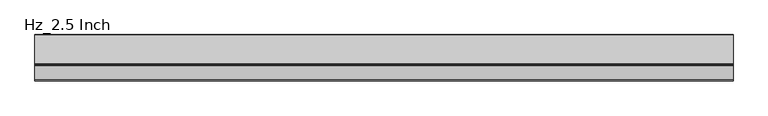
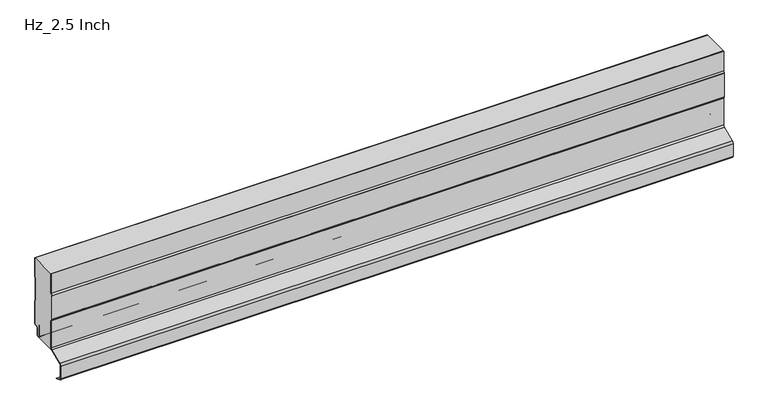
"""IFC4 building model written with IfcOpenShell, lengths in millimetres: plate geometry, AWIP_R18_CP_HR3_Hz_Roof Panel : Hz_2.5 Inch."""

from ifc_helpers import new_model, si_unit, point, frame, frame_2d, origin, place, context, project, spatial, polyline, circle_curve, trimmed, segment, composite_curve, outline, extrude, source, transform, mapped, element, save
from ifc_brep_helpers import plane_surface, cylinder_surface, revolved_surface, advanced_brep


def hz_2_5_inch_6ec0f008(model_context):
    return source(origin(), model_context, "Body", "SolidModel", [
        advanced_brep(
        [(-723.9042608, -59.9158805, 203.2), (723.9042608, -59.9158805, 203.2), (723.9042608, -0.8, 203.2), (-723.9042608, -0.8, 203.2), (-723.9042608, -59.9158805, 35.2427703), (-723.9042608, -59.9158805, 96.0266872), (-723.9042608, -60.1621797, 96.788077), (-723.9042608, -62.7, 100.3002117), (-723.9042608, -62.7, 154.5030919), (-723.9042608, -60.1621797, 158.0152264), (-723.9042608, -59.9158805, 158.7766163), (-723.9042608, -0.8, 161.5426774), (-723.9042608, -0.9968123, 160.5908561), (-723.9042608, -2.0293831, 158.2007569), (-723.9042608, -2.3, 156.8920026), (-723.9042608, -2.3, 108.5079974), (-723.9042608, -2.0293831, 107.1992431), (-723.9042608, -0.9968123, 104.8091439), (-723.9042608, -0.8, 103.8573226), (-723.9042608, -0.8, 54.1), (-723.9042608, -3.0, 51.9), (-723.9042608, -5.0, 51.9), (-723.9042608, -9.8, 47.1), (-723.9042608, -9.8, 33.5841899), (-723.9042608, -12.0, 31.3841899), (-723.9042608, -14.0, 31.3841899), (-723.9042608, -16.2, 33.5841899), (-723.9042608, -16.2, 59.5252318), (-723.9042608, -17.0, 59.5252318), (-723.9042608, -17.0, 33.5841899), (-723.9042608, -14.0, 30.5841899), (-723.9042608, -63.6298575, 30.5672433), (723.9042608, -59.9158805, 35.2427703), (723.9042608, -63.6298575, 30.5672433), (723.9042608, -14.0, 30.5672433), (723.9042608, -17.0, 33.5841899), (723.9042608, -17.0, 59.5252318), (723.9042608, -16.2, 59.5252318), (723.9042608, -16.2, 33.5841899), (723.9042608, -14.0, 31.3841899), (723.9042608, -12.0, 31.3841899), (723.9042608, -9.8, 33.5841899), (723.9042608, -9.8, 47.1), (723.9042608, -5.0, 51.9), (723.9042608, -3.0, 51.9), (723.9042608, -0.8, 54.1), (723.9042608, -0.8, 103.8573226), (723.9042608, -0.9968123, 104.8091439), (723.9042608, -2.0293831, 107.1992431), (723.9042608, -2.3, 108.5079974), (723.9042608, -2.3, 156.8920026), (723.9042608, -2.0293831, 158.2007569), (723.9042608, -0.9968123, 160.5908561), (723.9042608, -0.8, 161.5426774), (723.9042608, -59.9158805, 158.7766163), (723.9042608, -60.1621797, 158.0152264), (723.9042608, -62.7, 154.5030919), (723.9042608, -62.7, 100.3002117), (723.9042608, -60.1621797, 96.788077), (723.9042608, -59.9158805, 96.0266872)],
        [
            (0, 1),
            (1, 2),
            (2, 3),
            (3, 0),
            (4, 5),
            (5, 6, circle_curve(frame((-723.9042608, -61.2158805, 96.0266872), z_axis=(1.0, 0.0, 0.0), x_axis=(0.0, -1.0, 0.0)), 1.3)),
            (6, 7),
            (7, 8),
            (8, 9),
            (9, 10, circle_curve(frame((-723.9042608, -61.2158805, 158.7766163), z_axis=(1.0, 0.0, 0.0), x_axis=(0.0, -1.0, 0.0)), 1.3)),
            (10, 0),
            (3, 11),
            (11, 12, circle_curve(frame((-723.9042608, -3.2, 161.5426774), z_axis=(-1.0, 0.0, 0.0), x_axis=(0.0, -1.0, 0.0)), 2.4)),
            (12, 13),
            (13, 14, circle_curve(frame((-723.9042608, 1.0, 156.8920026), z_axis=(1.0, 0.0, 0.0), x_axis=(0.0, -1.0, 0.0)), 3.3)),
            (14, 15),
            (15, 16, circle_curve(frame((-723.9042608, 1.0, 108.5079974), z_axis=(1.0, 0.0, 0.0), x_axis=(0.0, -1.0, 0.0)), 3.3)),
            (16, 17),
            (17, 18, circle_curve(frame((-723.9042608, -3.2, 103.8573226), z_axis=(-1.0, 0.0, 0.0), x_axis=(0.0, -1.0, 0.0)), 2.4)),
            (18, 19),
            (19, 20, circle_curve(frame((-723.9042608, -3.0, 54.1), z_axis=(-1.0, 0.0, 0.0), x_axis=(0.0, -1.0, 0.0)), 2.2)),
            (20, 21),
            (21, 22, circle_curve(frame((-723.9042608, -5.0, 47.1), z_axis=(1.0, 0.0, 0.0), x_axis=(0.0, -1.0, 0.0)), 4.8)),
            (22, 23),
            (23, 24, circle_curve(frame((-723.9042608, -12.0, 33.5841899), z_axis=(-1.0, 0.0, 0.0), x_axis=(0.0, -1.0, 0.0)), 2.2)),
            (24, 25),
            (25, 26, circle_curve(frame((-723.9042608, -14.0, 33.5841899), z_axis=(-1.0, 0.0, 0.0), x_axis=(0.0, -1.0, 0.0)), 2.2)),
            (26, 27),
            (27, 28),
            (28, 29),
            (29, 30, circle_curve(frame((-723.9042608, -14.0, 33.5841899), z_axis=(1.0, 0.0, 0.0), x_axis=(0.0, -1.0, 0.0)), 3.0)),
            (30, 31),
            (31, 4, circle_curve(frame((-723.9042608, -64.7158804, 35.2427703), z_axis=(1.0, 0.0, 0.0), x_axis=(0.0, -1.0, 0.0)), 4.7999999)),
            (32, 33, circle_curve(frame((723.9042608, -64.7158804, 35.2427703), z_axis=(-1.0, 0.0, 0.0), x_axis=(0.0, -1.0, 0.0)), 4.7999999)),
            (33, 34),
            (34, 35, circle_curve(frame((723.9042608, -14.0, 33.5841899), z_axis=(-1.0, 0.0, 0.0), x_axis=(0.0, -1.0, 0.0)), 3.0)),
            (35, 36),
            (36, 37),
            (37, 38),
            (38, 39, circle_curve(frame((723.9042608, -14.0, 33.5841899), z_axis=(1.0, 0.0, 0.0), x_axis=(0.0, -1.0, 0.0)), 2.2)),
            (39, 40),
            (40, 41, circle_curve(frame((723.9042608, -12.0, 33.5841899), z_axis=(1.0, 0.0, 0.0), x_axis=(0.0, -1.0, 0.0)), 2.2)),
            (41, 42),
            (42, 43, circle_curve(frame((723.9042608, -5.0, 47.1), z_axis=(-1.0, 0.0, 0.0), x_axis=(0.0, -1.0, 0.0)), 4.8)),
            (43, 44),
            (44, 45, circle_curve(frame((723.9042608, -3.0, 54.1), z_axis=(1.0, 0.0, 0.0), x_axis=(0.0, -1.0, 0.0)), 2.2)),
            (45, 46),
            (46, 47, circle_curve(frame((723.9042608, -3.2, 103.8573226), z_axis=(1.0, 0.0, 0.0), x_axis=(0.0, -1.0, 0.0)), 2.4)),
            (47, 48),
            (48, 49, circle_curve(frame((723.9042608, 1.0, 108.5079974), z_axis=(-1.0, 0.0, 0.0), x_axis=(0.0, -1.0, 0.0)), 3.3)),
            (49, 50),
            (50, 51, circle_curve(frame((723.9042608, 1.0, 156.8920026), z_axis=(-1.0, 0.0, 0.0), x_axis=(0.0, -1.0, 0.0)), 3.3)),
            (51, 52),
            (52, 53, circle_curve(frame((723.9042608, -3.2, 161.5426774), z_axis=(1.0, 0.0, 0.0), x_axis=(0.0, -1.0, 0.0)), 2.4)),
            (53, 2),
            (1, 54),
            (54, 55, circle_curve(frame((723.9042608, -61.2158805, 158.7766163), z_axis=(-1.0, 0.0, 0.0), x_axis=(0.0, -1.0, 0.0)), 1.3)),
            (55, 56),
            (56, 57),
            (57, 58),
            (58, 59, circle_curve(frame((723.9042608, -61.2158805, 96.0266872), z_axis=(-1.0, 0.0, 0.0), x_axis=(0.0, -1.0, 0.0)), 1.3)),
            (59, 32),
            (31, 33),
            (32, 4),
            (30, 34),
            (29, 35),
            (28, 36),
            (27, 37),
            (26, 38),
            (25, 39),
            (24, 40),
            (23, 41),
            (22, 42),
            (21, 43),
            (20, 44),
            (19, 45),
            (18, 46),
            (17, 47),
            (16, 48),
            (15, 49),
            (14, 50),
            (13, 51),
            (12, 52),
            (11, 53),
            (10, 54),
            (9, 55),
            (8, 56),
            (7, 57),
            (6, 58),
            (5, 59),
        ],
        [
            plane_surface(frame((723.9042608, 5.0, 203.2), z_axis=(0.0, 0.0, 1.0), x_axis=(-1.0, 0.0, 0.0))),
            plane_surface(frame((-723.9042608, -0.8, 508.0), z_axis=(-1.0, 0.0, 0.0), x_axis=(0.0, -1.0, 0.0))),
            plane_surface(frame((723.9042608, -0.8, 508.0), z_axis=(1.0, 0.0, 0.0), x_axis=(0.0, -1.0, 0.0))),
            revolved_surface(polyline([(723.9042608, -69.5158803, 35.2427703), (-723.9042608, -69.5158803, 35.2427703)]), (-723.9042608, -64.7158804, 35.2427703), (1.0, 0.0, 0.0)),
            plane_surface(frame((-723.9042608, -63.6298575, 30.5672433), z_axis=(0.0, 0.0, -1.0), x_axis=(1.0, 0.0, 0.0))),
            revolved_surface(polyline([(723.9042608, -17.0, 33.5841899), (-723.9042608, -17.0, 33.5841899)]), (-723.9042608, -14.0, 33.5841899), (1.0, 0.0, 0.0)),
            plane_surface(frame((-723.9042608, -17.0, 33.5841899), z_axis=(0.0, 1.0, 0.0), x_axis=(1.0, 0.0, 0.0))),
            plane_surface(frame((-723.9042608, -17.0, 59.5252318), z_axis=(0.0, 0.0, -1.0), x_axis=(1.0, 0.0, 0.0))),
            plane_surface(frame((-723.9042608, -16.2, 59.5252318), z_axis=(0.0, -1.0, 0.0), x_axis=(1.0, 0.0, 0.0))),
            cylinder_surface(frame((-723.9042608, -14.0, 33.5841899), z_axis=(-1.0, 0.0, 0.0), x_axis=(0.0, -1.0, 0.0)), 2.2),
            plane_surface(frame((-723.9042608, -14.0, 31.3841899), z_axis=(0.0, 0.0, -1.0), x_axis=(1.0, 0.0, 0.0))),
            cylinder_surface(frame((-723.9042608, -12.0, 33.5841899), z_axis=(-1.0, 0.0, 0.0), x_axis=(0.0, -1.0, 0.0)), 2.2),
            plane_surface(frame((-723.9042608, -9.8, 33.5841899), z_axis=(0.0, 1.0, 0.0), x_axis=(1.0, 0.0, 0.0))),
            revolved_surface(polyline([(723.9042608, -9.8, 47.1), (-723.9042608, -9.8, 47.1)]), (-723.9042608, -5.0, 47.1), (1.0, 0.0, 0.0)),
            plane_surface(frame((-723.9042608, -5.0, 51.9), z_axis=(0.0, 0.0, -1.0), x_axis=(1.0, 0.0, 0.0))),
            cylinder_surface(frame((-723.9042608, -3.0, 54.1), z_axis=(-1.0, 0.0, 0.0), x_axis=(0.0, -1.0, 0.0)), 2.2),
            plane_surface(frame((-723.9042608, -0.8, 54.1), z_axis=(0.0, 1.0, 0.0), x_axis=(1.0, 0.0, 0.0))),
            cylinder_surface(frame((-723.9042608, -3.2, 103.8573226), z_axis=(-1.0, 0.0, 0.0), x_axis=(0.0, -1.0, 0.0)), 2.4),
            plane_surface(frame((-723.9042608, -0.9968123, 104.8091439), z_axis=(0.0, 0.9179948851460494, 0.3965922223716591), x_axis=(1.0, 0.0, 0.0))),
            revolved_surface(polyline([(723.9042608, -2.3, 108.5079974), (-723.9042608, -2.3, 108.5079974)]), (-723.9042608, 1.0, 108.5079974), (1.0, 0.0, 0.0)),
            plane_surface(frame((-723.9042608, -2.3, 108.5079974), z_axis=(0.0, 1.0, 0.0), x_axis=(1.0, 0.0, 0.0))),
            revolved_surface(polyline([(723.9042608, -2.3, 156.8920026), (-723.9042608, -2.3, 156.8920026)]), (-723.9042608, 1.0, 156.8920026), (1.0, 0.0, 0.0)),
            plane_surface(frame((-723.9042608, -2.0293831, 158.2007569), z_axis=(0.0, 0.9179948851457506, -0.39659222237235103), x_axis=(1.0, 0.0, 0.0))),
            cylinder_surface(frame((-723.9042608, -3.2, 161.5426774), z_axis=(-1.0, 0.0, 0.0), x_axis=(0.0, -1.0, 0.0)), 2.4),
            plane_surface(frame((-723.9042608, -0.8, 161.5426774), z_axis=(0.0, 1.0, 0.0), x_axis=(1.0, 0.0, 0.0))),
            plane_surface(frame((-723.9042608, -59.9158805, 219.2727425), z_axis=(0.0, -1.0, 0.0), x_axis=(1.0, 0.0, 0.0))),
            revolved_surface(polyline([(723.9042608, -62.515880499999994, 158.7766163), (-723.9042608, -62.515880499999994, 158.7766163)]), (-723.9042608, -61.2158805, 158.7766163), (1.0, 0.0, 0.0)),
            plane_surface(frame((-723.9042608, -60.1621797, 158.0152264), z_axis=(0.0, -0.8105391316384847, 0.585684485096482), x_axis=(1.0, 0.0, 0.0))),
            plane_surface(frame((-723.9042608, -62.7, 154.5030919), z_axis=(0.0, -1.0, 0.0), x_axis=(1.0, 0.0, 0.0))),
            plane_surface(frame((-723.9042608, -62.7, 100.3002117), z_axis=(0.0, -0.8105391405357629, -0.5856844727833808), x_axis=(1.0, 0.0, 0.0))),
            revolved_surface(polyline([(723.9042608, -62.515880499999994, 96.0266872), (-723.9042608, -62.515880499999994, 96.0266872)]), (-723.9042608, -61.2158805, 96.0266872), (1.0, 0.0, 0.0)),
            plane_surface(frame((-723.9042608, -59.9158805, 96.0266872), z_axis=(0.0, -1.0, 0.0), x_axis=(1.0, 0.0, 0.0))),
        ],
        [
            (0, [[1, 2, 3, 4]]),
            (1, [[5, 6, 7, 8, 9, 10, 11, -4, 12, 13, 14, 15, 16, 17, 18, 19, 20, 21, 22, 23, 24, 25, 26, 27, 28, 29, 30, 31, 32, 33]]),
            (2, [[34, 35, 36, 37, 38, 39, 40, 41, 42, 43, 44, 45, 46, 47, 48, 49, 50, 51, 52, 53, 54, 55, -2, 56, 57, 58, 59, 60, 61, 62]]),
            (3, [[63, -34, 64, -33]]),
            (4, [[65, -35, -63, -32]]),
            (5, [[66, -36, -65, -31]]),
            (6, [[67, -37, -66, -30]]),
            (7, [[68, -38, -67, -29]]),
            (8, [[69, -39, -68, -28]]),
            (9, [[70, -40, -69, -27]]),
            (10, [[71, -41, -70, -26]]),
            (11, [[72, -42, -71, -25]]),
            (12, [[73, -43, -72, -24]]),
            (13, [[74, -44, -73, -23]]),
            (14, [[75, -45, -74, -22]]),
            (15, [[76, -46, -75, -21]]),
            (16, [[77, -47, -76, -20]]),
            (17, [[78, -48, -77, -19]]),
            (18, [[79, -49, -78, -18]]),
            (19, [[80, -50, -79, -17]]),
            (20, [[81, -51, -80, -16]]),
            (21, [[82, -52, -81, -15]]),
            (22, [[83, -53, -82, -14]]),
            (23, [[84, -54, -83, -13]]),
            (24, [[-12, -3, -55, -84]]),
            (25, [[-56, -1, -11, 85]]),
            (26, [[86, -57, -85, -10]]),
            (27, [[87, -58, -86, -9]]),
            (28, [[88, -59, -87, -8]]),
            (29, [[89, -60, -88, -7]]),
            (30, [[90, -61, -89, -6]]),
            (31, [[-64, -62, -90, -5]]),
        ],
    ),
        extrude(outline(composite_curve([segment(polyline([(-0.8, 161.5426774), (-0.8, 203.2), (0.0, 203.2), (0.0, 161.5426774)]), True, "CONTINUOUS"), segment(trimmed(circle_curve(frame_2d((-3.2, 161.5426774)), 3.2), [point((0.0, 161.5426774))], [point((-0.2624164, 160.2735823))], False, "CARTESIAN"), True, "CONTINUOUS"), segment(polyline([(-0.2624164, 160.2735823), (-1.2949872, 157.8834831)]), True, "CONTINUOUS"), segment(trimmed(circle_curve(frame_2d((1.0, 156.8920026)), 2.5), [point((-1.2949872, 157.8834831))], [point((-1.5, 156.8920026))], True, "CARTESIAN"), True, "CONTINUOUS"), segment(polyline([(-1.5, 156.8920026), (-1.5, 108.5079974)]), True, "CONTINUOUS"), segment(trimmed(circle_curve(frame_2d((1.0, 108.5079974)), 2.5), [point((-1.5, 108.5079974))], [point((-1.2949872, 107.5165169))], True, "CARTESIAN"), True, "CONTINUOUS"), segment(polyline([(-1.2949872, 107.5165169), (-0.2624164, 105.1264177)]), True, "CONTINUOUS"), segment(trimmed(circle_curve(frame_2d((-3.2, 103.8573226)), 3.2), [point((-0.2624164, 105.1264177))], [point((0.0, 103.8573226))], False, "CARTESIAN"), True, "CONTINUOUS"), segment(polyline([(0.0, 103.8573226), (0.0, 54.1)]), True, "CONTINUOUS"), segment(trimmed(circle_curve(frame_2d((-3.0, 54.1)), 3.0), [point((0.0, 54.1))], [point((-3.0, 51.1))], False, "CARTESIAN"), True, "CONTINUOUS"), segment(polyline([(-3.0, 51.1), (-5.0, 51.1)]), True, "CONTINUOUS"), segment(trimmed(circle_curve(frame_2d((-5.0, 47.1)), 4.0), [point((-5.0, 51.1))], [point((-9.0, 47.1))], True, "CARTESIAN"), True, "CONTINUOUS"), segment(polyline([(-9.0, 47.1), (-9.0, 33.5841899)]), True, "CONTINUOUS"), segment(trimmed(circle_curve(frame_2d((-12.0, 33.5841899)), 3.0), [point((-9.0, 33.5841899))], [point((-12.0, 30.5841899))], False, "CARTESIAN"), True, "CONTINUOUS"), segment(polyline([(-12.0, 30.5841899), (-14.0, 30.5841899)]), True, "CONTINUOUS"), segment(trimmed(circle_curve(frame_2d((-14.0, 33.5841899)), 3.0), [point((-14.0, 30.5841899))], [point((-17.0, 33.5841899))], False, "CARTESIAN"), True, "CONTINUOUS"), segment(polyline([(-17.0, 33.5841899), (-17.0, 59.5252318), (-16.2, 59.5252318), (-16.2, 33.5841899)]), True, "CONTINUOUS"), segment(trimmed(circle_curve(frame_2d((-14.0, 33.5841899)), 2.2), [point((-16.2, 33.5841899))], [point((-14.0, 31.3841899))], True, "CARTESIAN"), True, "CONTINUOUS"), segment(polyline([(-14.0, 31.3841899), (-12.0, 31.3841899)]), True, "CONTINUOUS"), segment(trimmed(circle_curve(frame_2d((-12.0, 33.5841899)), 2.2), [point((-12.0, 31.3841899))], [point((-9.8, 33.5841899))], True, "CARTESIAN"), True, "CONTINUOUS"), segment(polyline([(-9.8, 33.5841899), (-9.8, 47.1)]), True, "CONTINUOUS"), segment(trimmed(circle_curve(frame_2d((-5.0, 47.1)), 4.8), [point((-9.8, 47.1))], [point((-5.0, 51.9))], False, "CARTESIAN"), True, "CONTINUOUS"), segment(polyline([(-5.0, 51.9), (-3.0, 51.9)]), True, "CONTINUOUS"), segment(trimmed(circle_curve(frame_2d((-3.0, 54.1)), 2.2), [point((-3.0, 51.9))], [point((-0.8, 54.1))], True, "CARTESIAN"), True, "CONTINUOUS"), segment(polyline([(-0.8, 54.1), (-0.8, 103.8573226)]), True, "CONTINUOUS"), segment(trimmed(circle_curve(frame_2d((-3.2, 103.8573226)), 2.4), [point((-0.8, 103.8573226))], [point((-0.9968123, 104.8091439))], True, "CARTESIAN"), True, "CONTINUOUS"), segment(polyline([(-0.9968123, 104.8091439), (-2.0293831, 107.1992431)]), True, "CONTINUOUS"), segment(trimmed(circle_curve(frame_2d((1.0, 108.5079974)), 3.3), [point((-2.0293831, 107.1992431))], [point((-2.3, 108.5079974))], False, "CARTESIAN"), True, "CONTINUOUS"), segment(polyline([(-2.3, 108.5079974), (-2.3, 156.8920026)]), True, "CONTINUOUS"), segment(trimmed(circle_curve(frame_2d((1.0, 156.8920026)), 3.3), [point((-2.3, 156.8920026))], [point((-2.0293831, 158.2007569))], False, "CARTESIAN"), True, "CONTINUOUS"), segment(polyline([(-2.0293831, 158.2007569), (-0.9968123, 160.5908561)]), True, "CONTINUOUS"), segment(trimmed(circle_curve(frame_2d((-3.2, 161.5426774)), 2.4), [point((-0.9968123, 160.5908561))], [point((-0.8, 161.5426774))], True, "CARTESIAN"), True, "CONTINUOUS")], self_intersect=False)), frame((-723.9042608, 0.0, 0.0), z_axis=(1.0, 0.0, 0.0), x_axis=(0.0, 1.0, 0.0)), (0.0, 0.0, 1.0), 1447.8085217),
        extrude(outline(composite_curve([segment(trimmed(circle_curve(frame_2d((-61.2158802, 96.0266872)), 1.3), [point((-60.1621793, 96.788077))], [point((-59.9158802, 96.0266872))], False, "CARTESIAN"), True, "CONTINUOUS"), segment(polyline([(-59.9158802, 96.0266872), (-59.9158802, 35.2427703)]), True, "CONTINUOUS"), segment(trimmed(circle_curve(frame_2d((-64.7158801, 35.2427703)), 4.7999999), [point((-59.9158802, 35.2427703))], [point((-62.840401, 30.8243343))], False, "CARTESIAN"), True, "CONTINUOUS"), segment(polyline([(-62.840401, 30.8243343), (-92.8569246, 18.0833189)]), True, "CONTINUOUS"), segment(trimmed(circle_curve(frame_2d((-91.2158804, 14.2171873)), 4.2), [point((-92.8569246, 18.0833189))], [point((-95.4158804, 14.2171873))], True, "CARTESIAN"), True, "CONTINUOUS"), segment(polyline([(-95.4158804, 14.2171873), (-95.4158804, -14.1639048)]), True, "CONTINUOUS"), segment(trimmed(circle_curve(frame_2d((-91.2158804, -14.1639048)), 4.2), [point((-95.4158804, -14.1639048))], [point((-92.8569214, -18.0300378))], True, "CARTESIAN"), True, "CONTINUOUS"), segment(polyline([(-92.8569214, -18.0300378), (-80.254669, -23.3792623), (-80.5672482, -24.1156686), (-93.1695006, -18.7664441)]), True, "CONTINUOUS"), segment(trimmed(circle_curve(frame_2d((-91.2158804, -14.1639048)), 5.0), [point((-93.1695006, -18.7664441))], [point((-96.2158804, -14.1639048))], False, "CARTESIAN"), True, "CONTINUOUS"), segment(polyline([(-96.2158804, -14.1639048), (-96.2158804, 14.2171873)]), True, "CONTINUOUS"), segment(trimmed(circle_curve(frame_2d((-91.2158804, 14.2171873)), 5.0), [point((-96.2158804, 14.2171873))], [point((-93.1695045, 18.8197249))], False, "CARTESIAN"), True, "CONTINUOUS"), segment(polyline([(-93.1695045, 18.8197249), (-63.1529809, 31.5607405)]), True, "CONTINUOUS"), segment(trimmed(circle_curve(frame_2d((-64.7158801, 35.2427703)), 3.9999997), [point((-63.1529809, 31.5607405))], [point((-60.7158804, 35.2427703))], True, "CARTESIAN"), True, "CONTINUOUS"), segment(polyline([(-60.7158804, 35.2427703), (-60.7158804, 96.1884306), (-63.2158081, 99.6481249)]), True, "CONTINUOUS"), segment(trimmed(circle_curve(frame_2d((-61.9999994, 100.5266516)), 1.4999999), [point((-63.2158081, 99.6481249))], [point((-63.4999994, 100.5266516))], False, "CARTESIAN"), True, "CONTINUOUS"), segment(polyline([(-63.4999994, 100.5266516), (-63.4999994, 154.2756802)]), True, "CONTINUOUS"), segment(trimmed(circle_curve(frame_2d((-61.9999997, 154.2766516)), 1.5), [point((-63.4999994, 154.2756802))], [point((-63.2158084, 155.1551783))], False, "CARTESIAN"), True, "CONTINUOUS"), segment(polyline([(-63.2158084, 155.1551783), (-60.7158803, 158.6148732), (-60.7158803, 203.2), (-59.9158802, 203.2), (-59.9158802, 158.7766163)]), True, "CONTINUOUS"), segment(trimmed(circle_curve(frame_2d((-61.2158802, 158.7766163)), 1.3), [point((-59.9158802, 158.7766163))], [point((-60.1621793, 158.0152264))], False, "CARTESIAN"), True, "CONTINUOUS"), segment(polyline([(-60.1621793, 158.0152264), (-62.6999997, 154.5030919), (-62.6999997, 100.3002117), (-60.1621793, 96.788077)]), True, "CONTINUOUS")], self_intersect=False)), frame((-723.9042608, 0.0, 0.0), z_axis=(1.0, 0.0, 0.0), x_axis=(0.0, 1.0, 0.0)), (0.0, 0.0, 1.0), 1447.8085217),
    ])


if __name__ == "__main__":
    model = new_model("IFC4")
    model_context = context("Model", 3, world=origin())
    ifc_project = project(units=[si_unit("LENGTHUNIT", "METRE", prefix="MILLI")], contexts=[model_context])
    site = spatial("IfcSite", under=ifc_project)
    building = spatial("IfcBuilding", under=site)
    placement = place(None, origin())
    hz_2_5_inch_shape = hz_2_5_inch_6ec0f008(model_context)
    element("IfcPlate", 1, ObjectType="AWIP_R18_CP_HR3_Hz_Roof Panel : Hz_2.5 Inch", at=placement, inside=building, context=model_context, shape_type="MappedRepresentation", body=[
        mapped(hz_2_5_inch_shape, transform((0.0, 0.0, 0.0), x_axis=(1.0, 0.0, 0.0), y_axis=(0.0, 1.0, 0.0), z_axis=(0.0, 0.0, 1.0))),
    ])
    save(model, "model.ifc")
